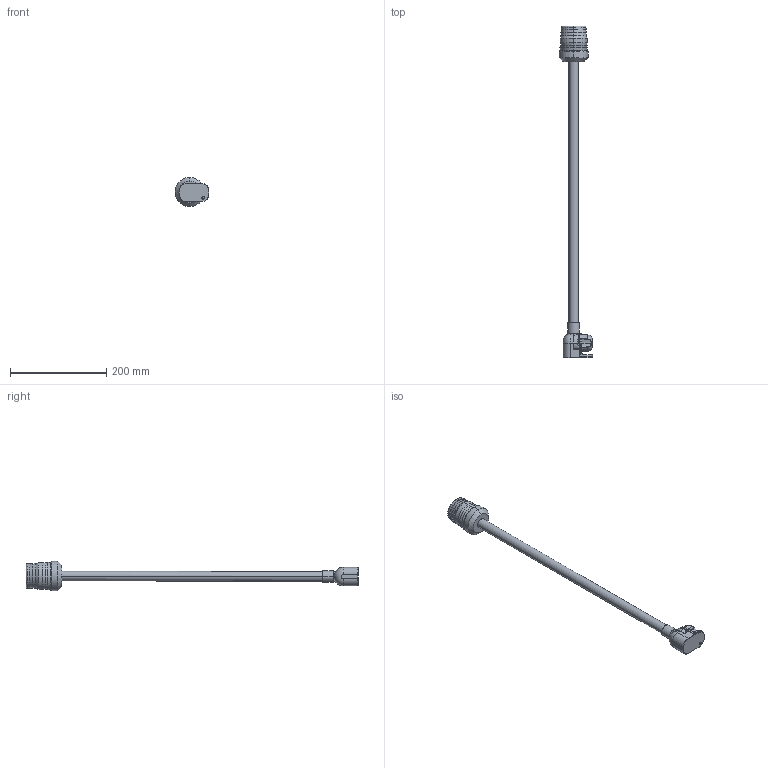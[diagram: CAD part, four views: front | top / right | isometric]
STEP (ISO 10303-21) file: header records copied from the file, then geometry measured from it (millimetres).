
FILE_DESCRIPTION (( 'STEP AP203' ), '1' );
FILE_NAME ('11.143.10.STEP', '2023-07-18T07:52:11', ( '' ), ( '' ), 'SwSTEP 2.0', 'SolidWorks 2014', '' );
FILE_SCHEMA (( 'CONFIG_CONTROL_DESIGN' ));
Length unit declared in the file: millimetre
Products named in the file (6): 11.143.10; 11.143.10_3; 11.143.10_1; 11.143.10_2; 11.143.10_4; 11.133.00_Luci
Assembly tree (5 placements, depth 2):
  11.143.10
    11.143.10_1
    11.143.10_2
    11.143.10_3
    11.143.10_4
    11.133.00_Luci
Bounding box: 70.3 x 690.54 x 60.62 mm (x, y, z)
Volume: 435389 mm3; surface area: 78150.8 mm2
Topology: 5 solids, 5 shells, 243 faces, 585 edges, 359 vertices
Faces by surface type: plane 101, cylinder 60, cone 45, torus 25, bspline 10, sphere 2
Entity records: 8442 total; most frequent: CARTESIAN_POINT 2340, DIRECTION 1193, ORIENTED_EDGE 1164, EDGE_CURVE 582, AXIS2_PLACEMENT_3D 492, VERTEX_POINT 359, EDGE_LOOP 257, CIRCLE 251
